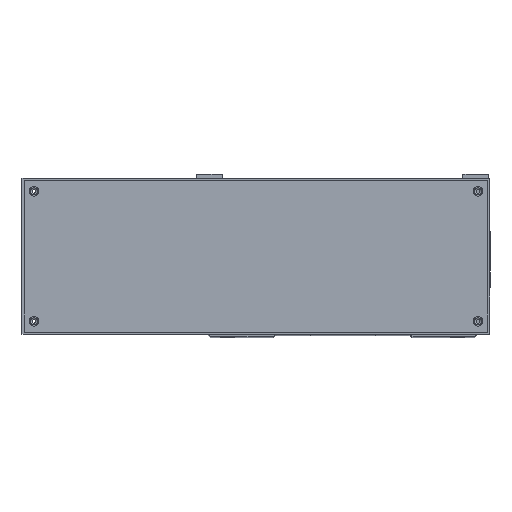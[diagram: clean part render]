
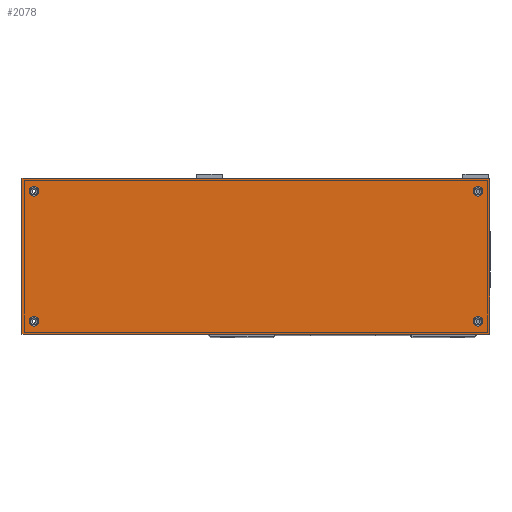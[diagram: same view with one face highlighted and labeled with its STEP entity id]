
A CAD part, top view. The second image highlights one B-rep face of the part: STEP entity #2078.
In plain terms, the highlighted planar face has unit normal (0, 0, 1).
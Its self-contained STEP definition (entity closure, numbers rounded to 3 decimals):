
#1220=FACE_BOUND('',#4164,.T.);
#1221=FACE_BOUND('',#4165,.T.);
#1222=FACE_BOUND('',#4166,.T.);
#1223=FACE_BOUND('',#4167,.T.);
#1224=FACE_BOUND('',#4168,.T.);
#2078=ADVANCED_FACE('',(#1220,#1221,#1222,#1223,#1224),#2610,.F.);
#2610=PLANE('',#16084);
#4164=EDGE_LOOP('',(#8123));
#4165=EDGE_LOOP('',(#8124));
#4166=EDGE_LOOP('',(#8125));
#4167=EDGE_LOOP('',(#8126));
#4168=EDGE_LOOP('',(#8127,#8128,#8129,#8130));
#5126=CIRCLE('',#16080,2.25);
#5127=CIRCLE('',#16081,2.25);
#5128=CIRCLE('',#16082,2.25);
#5129=CIRCLE('',#16083,2.25);
#8123=ORIENTED_EDGE('',*,*,#12278,.F.);
#8124=ORIENTED_EDGE('',*,*,#12279,.F.);
#8125=ORIENTED_EDGE('',*,*,#12280,.F.);
#8126=ORIENTED_EDGE('',*,*,#12281,.F.);
#8127=ORIENTED_EDGE('',*,*,#11263,.F.);
#8128=ORIENTED_EDGE('',*,*,#12282,.F.);
#8129=ORIENTED_EDGE('',*,*,#12283,.F.);
#8130=ORIENTED_EDGE('',*,*,#11230,.F.);
#9700=VERTEX_POINT('',#22448);
#9701=VERTEX_POINT('',#22450);
#9724=VERTEX_POINT('',#22511);
#10389=VERTEX_POINT('',#26662);
#10390=VERTEX_POINT('',#26664);
#10391=VERTEX_POINT('',#26666);
#10392=VERTEX_POINT('',#26668);
#10393=VERTEX_POINT('',#26670);
#11230=EDGE_CURVE('',#9700,#9701,#12978,.T.);
#11263=EDGE_CURVE('',#9724,#9700,#13009,.T.);
#12278=EDGE_CURVE('',#10389,#10389,#5126,.T.);
#12279=EDGE_CURVE('',#10390,#10390,#5127,.T.);
#12280=EDGE_CURVE('',#10391,#10391,#5128,.T.);
#12281=EDGE_CURVE('',#10392,#10392,#5129,.T.);
#12282=EDGE_CURVE('',#10393,#9724,#13569,.T.);
#12283=EDGE_CURVE('',#9701,#10393,#13570,.T.);
#12978=LINE('',#22449,#14046);
#13009=LINE('',#22512,#14077);
#13569=LINE('',#26669,#14637);
#13570=LINE('',#26671,#14638);
#14046=VECTOR('',#17365,1.);
#14077=VECTOR('',#17412,1.);
#14637=VECTOR('',#19732,1.);
#14638=VECTOR('',#19733,1.);
#16080=AXIS2_PLACEMENT_3D('',#26661,#19724,#19725);
#16081=AXIS2_PLACEMENT_3D('',#26663,#19726,#19727);
#16082=AXIS2_PLACEMENT_3D('',#26665,#19728,#19729);
#16083=AXIS2_PLACEMENT_3D('',#26667,#19730,#19731);
#16084=AXIS2_PLACEMENT_3D('',#26672,#19734,#19735);
#17365=DIRECTION('',(-1.,0.,0.));
#17412=DIRECTION('',(0.,-1.,0.));
#19724=DIRECTION('',(0.,0.,1.));
#19725=DIRECTION('',(-1.,0.,0.));
#19726=DIRECTION('',(0.,0.,1.));
#19727=DIRECTION('',(1.,0.,0.));
#19728=DIRECTION('',(0.,0.,1.));
#19729=DIRECTION('',(-1.,0.,0.));
#19730=DIRECTION('',(0.,0.,1.));
#19731=DIRECTION('',(1.,0.,0.));
#19732=DIRECTION('',(1.,0.,0.));
#19733=DIRECTION('',(0.,1.,0.));
#19734=DIRECTION('',(0.,0.,-1.));
#19735=DIRECTION('',(1.,0.,0.));
#22448=CARTESIAN_POINT('',(68.,0.,193.));
#22449=CARTESIAN_POINT('',(68.,0.,193.));
#22450=CARTESIAN_POINT('',(-148.,0.,193.));
#22511=CARTESIAN_POINT('',(68.,72.,193.));
#22512=CARTESIAN_POINT('',(68.,72.,193.));
#26661=CARTESIAN_POINT('',(-142.5,6.,193.));
#26662=CARTESIAN_POINT('',(-144.75,6.,193.));
#26663=CARTESIAN_POINT('',(62.5,6.,193.));
#26664=CARTESIAN_POINT('',(64.75,6.,193.));
#26665=CARTESIAN_POINT('',(62.5,66.,193.));
#26666=CARTESIAN_POINT('',(60.25,66.,193.));
#26667=CARTESIAN_POINT('',(-142.5,66.,193.));
#26668=CARTESIAN_POINT('',(-140.25,66.,193.));
#26669=CARTESIAN_POINT('',(68.,72.,193.));
#26670=CARTESIAN_POINT('',(-148.,72.,193.));
#26671=CARTESIAN_POINT('',(-148.,72.,193.));
#26672=CARTESIAN_POINT('',(-40.,36.,193.));
